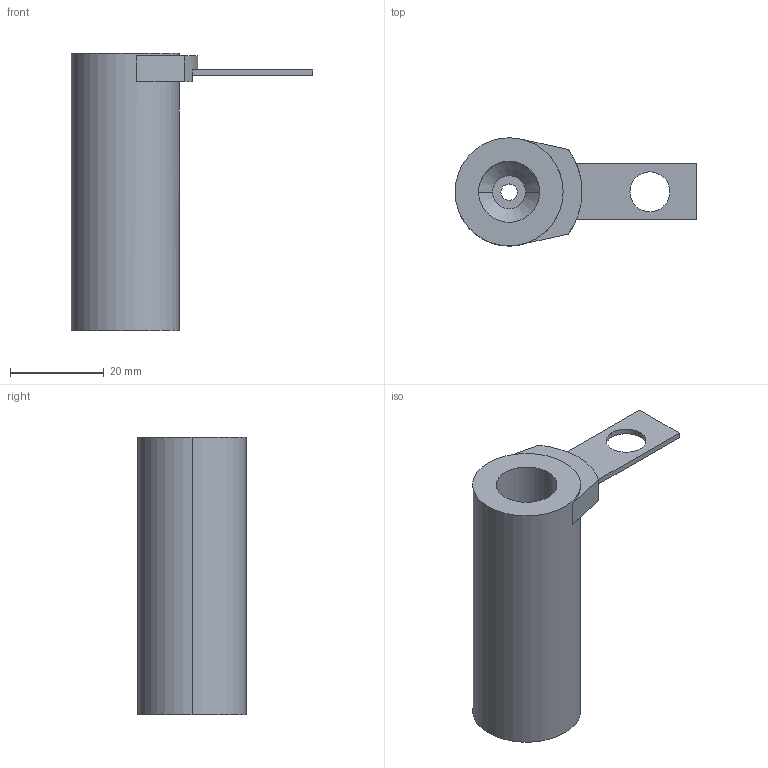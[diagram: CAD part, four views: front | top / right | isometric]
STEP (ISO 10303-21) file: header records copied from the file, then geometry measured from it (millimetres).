
FILE_DESCRIPTION(/* description */ (''),/* implementation_level */ '2;1');
FILE_NAME(/* name */ '3d_tus13-59_06245_r00.stp',/* time_stamp */ '2011-01-10T14:08:55+09:00',/* author */ ('MISUMI'),/* organization */ (''),/* preprocessor_version */ 'ST-DEVELOPER v11',/* originating_system */ 'UGS - NX 5.0',/* authorisation */ '');
FILE_SCHEMA (('CONFIG_CONTROL_DESIGN'));
Length unit declared in the file: millimetre
Products named in the file (1): 3d_tus13-59_06245_r00
Bounding box: 51.47 x 23 x 59 mm (x, y, z)
Volume: 18270.3 mm3; surface area: 8145.5 mm2
Topology: 2 solids, 2 shells, 28 faces, 67 edges, 44 vertices
Faces by surface type: plane 17, cylinder 9, cone 2
Entity records: 915 total; most frequent: DIRECTION 153, CARTESIAN_POINT 140, ORIENTED_EDGE 134, EDGE_CURVE 67, AXIS2_PLACEMENT_3D 57, VERTEX_POINT 44, LINE 39, VECTOR 39
